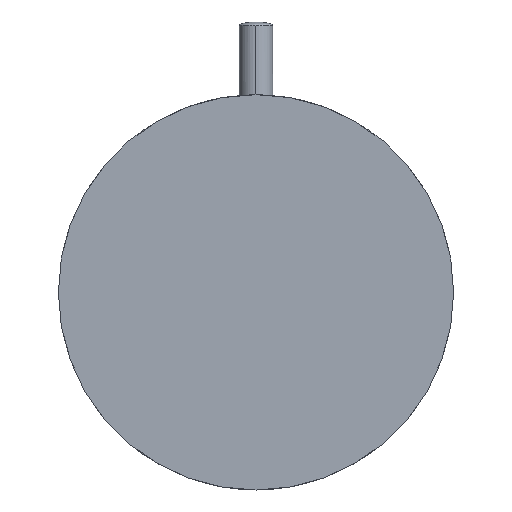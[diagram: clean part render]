
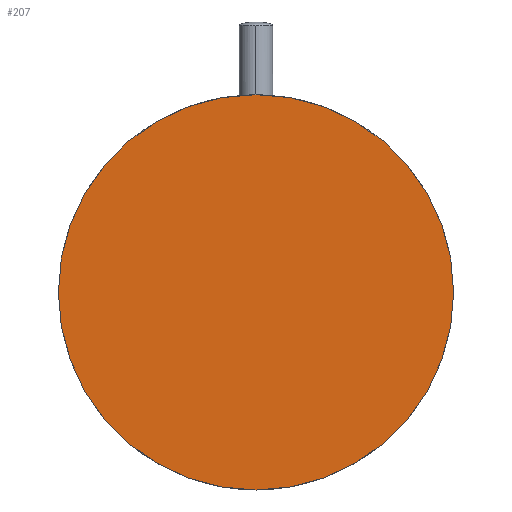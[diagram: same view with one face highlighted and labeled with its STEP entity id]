
A CAD part, front view. The second image highlights one B-rep face of the part: STEP entity #207.
In plain terms, the highlighted planar face has unit normal (0, -1, 0).
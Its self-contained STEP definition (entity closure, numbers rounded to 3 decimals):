
#91 = CARTESIAN_POINT ( 'NONE',  ( 0., 1.984, 58.5 ) ) ;
#103 = ORIENTED_EDGE ( 'NONE', *, *, #312, .F. ) ;
#117 = DIRECTION ( 'NONE',  ( 0., -1., 0. ) ) ;
#147 = AXIS2_PLACEMENT_3D ( 'NONE', #1168, #1429, #864 ) ;
#198 = CIRCLE ( 'NONE', #147, 58.5 ) ;
#207 = ADVANCED_FACE ( 'NONE', ( #511 ), #1626, .T. ) ;
#283 = DIRECTION ( 'NONE',  ( 0., 0., -1. ) ) ;
#312 = EDGE_CURVE ( 'NONE', #1420, #1461, #198, .T. ) ;
#363 = AXIS2_PLACEMENT_3D ( 'NONE', #1492, #117, #283 ) ;
#396 = AXIS2_PLACEMENT_3D ( 'NONE', #1614, #406, #1211 ) ;
#406 = DIRECTION ( 'NONE',  ( 0., 1., 0. ) ) ;
#412 = EDGE_CURVE ( 'NONE', #1461, #1420, #481, .T. ) ;
#481 = CIRCLE ( 'NONE', #396, 58.5 ) ;
#511 = FACE_OUTER_BOUND ( 'NONE', #1471, .T. ) ;
#864 = DIRECTION ( 'NONE',  ( 0., 0., -1. ) ) ;
#994 = ORIENTED_EDGE ( 'NONE', *, *, #412, .F. ) ;
#1168 = CARTESIAN_POINT ( 'NONE',  ( 0., 1.984, 0. ) ) ;
#1211 = DIRECTION ( 'NONE',  ( 0., 0., -1. ) ) ;
#1420 = VERTEX_POINT ( 'NONE', #1544 ) ;
#1429 = DIRECTION ( 'NONE',  ( 0., 1., 0. ) ) ;
#1461 = VERTEX_POINT ( 'NONE', #91 ) ;
#1471 = EDGE_LOOP ( 'NONE', ( #103, #994 ) ) ;
#1492 = CARTESIAN_POINT ( 'NONE',  ( -58.2, 1.984, 0. ) ) ;
#1544 = CARTESIAN_POINT ( 'NONE',  ( 0., 1.984, -58.5 ) ) ;
#1614 = CARTESIAN_POINT ( 'NONE',  ( 0., 1.984, 0. ) ) ;
#1626 = PLANE ( 'NONE',  #363 ) ;
